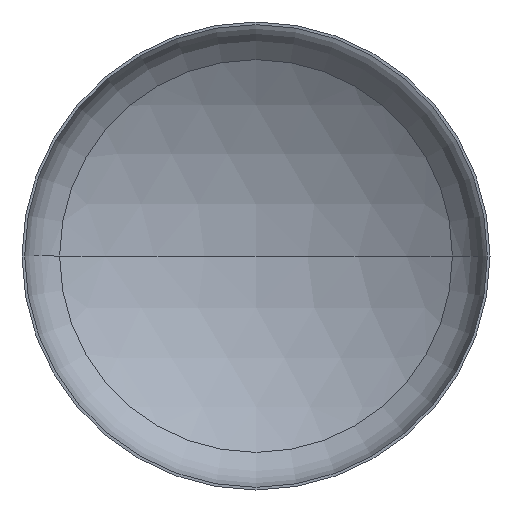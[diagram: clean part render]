
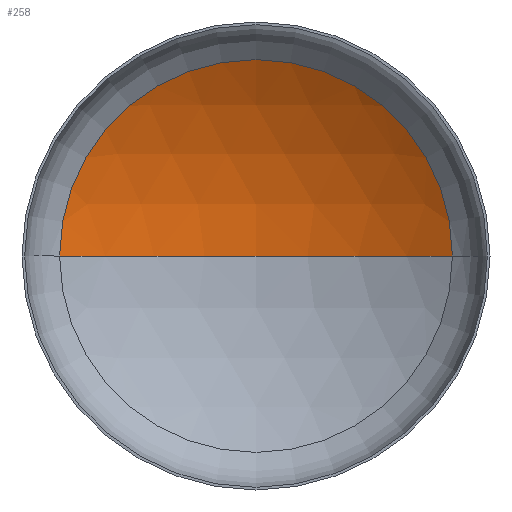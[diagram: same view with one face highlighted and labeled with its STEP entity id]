
A CAD part, front view. The second image highlights one B-rep face of the part: STEP entity #258.
In plain terms, the highlighted spherical face has radius 560 mm.
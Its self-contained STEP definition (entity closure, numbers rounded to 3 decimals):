
#34 = VERTEX_POINT ( 'NONE', #227 ) ;
#39 = DIRECTION ( 'NONE',  ( 0., 0., -1. ) ) ;
#46 = EDGE_CURVE ( 'NONE', #117, #118, #150, .T. ) ;
#70 = DIRECTION ( 'NONE',  ( 1., 0., 0. ) ) ;
#73 = ORIENTED_EDGE ( 'NONE', *, *, #260, .T. ) ;
#82 = ORIENTED_EDGE ( 'NONE', *, *, #90, .T. ) ;
#90 = EDGE_CURVE ( 'NONE', #117, #34, #123, .T. ) ;
#99 = DIRECTION ( 'NONE',  ( -1., 0., 0. ) ) ;
#117 = VERTEX_POINT ( 'NONE', #179 ) ;
#118 = VERTEX_POINT ( 'NONE', #316 ) ;
#123 = CIRCLE ( 'NONE', #339, 560. ) ;
#137 = CARTESIAN_POINT ( 'NONE',  ( 0., 113.659, 0. ) ) ;
#140 = DIRECTION ( 'NONE',  ( 0., -1., 0. ) ) ;
#150 = CIRCLE ( 'NONE', #279, 560. ) ;
#172 = ORIENTED_EDGE ( 'NONE', *, *, #46, .F. ) ;
#179 = CARTESIAN_POINT ( 'NONE',  ( 0., 196.85, 0. ) ) ;
#182 = CARTESIAN_POINT ( 'NONE',  ( 0., -363.15, 0. ) ) ;
#199 = EDGE_LOOP ( 'NONE', ( #172, #82, #73 ) ) ;
#203 = DIRECTION ( 'NONE',  ( 0., 0., 1. ) ) ;
#205 = CARTESIAN_POINT ( 'NONE',  ( 0., -363.15, 0. ) ) ;
#214 = CARTESIAN_POINT ( 'NONE',  ( 0., -363.15, 0. ) ) ;
#227 = CARTESIAN_POINT ( 'NONE',  ( 293.689, 113.659, 0. ) ) ;
#258 = ADVANCED_FACE ( 'NONE', ( #337 ), #381, .F. ) ;
#260 = EDGE_CURVE ( 'NONE', #34, #118, #318, .T. ) ;
#279 = AXIS2_PLACEMENT_3D ( 'NONE', #205, #203, #338 ) ;
#289 = AXIS2_PLACEMENT_3D ( 'NONE', #137, #140, #70 ) ;
#310 = AXIS2_PLACEMENT_3D ( 'NONE', #214, #39, #99 ) ;
#316 = CARTESIAN_POINT ( 'NONE',  ( -293.689, 113.659, 0. ) ) ;
#318 = CIRCLE ( 'NONE', #289, 293.689 ) ;
#337 = FACE_OUTER_BOUND ( 'NONE', #199, .T. ) ;
#338 = DIRECTION ( 'NONE',  ( 1., 0., 0. ) ) ;
#339 = AXIS2_PLACEMENT_3D ( 'NONE', #182, #343, #341 ) ;
#341 = DIRECTION ( 'NONE',  ( -1., 0., 0. ) ) ;
#343 = DIRECTION ( 'NONE',  ( 0., 0., -1. ) ) ;
#381 = SPHERICAL_SURFACE ( 'NONE', #310, 560. ) ;
